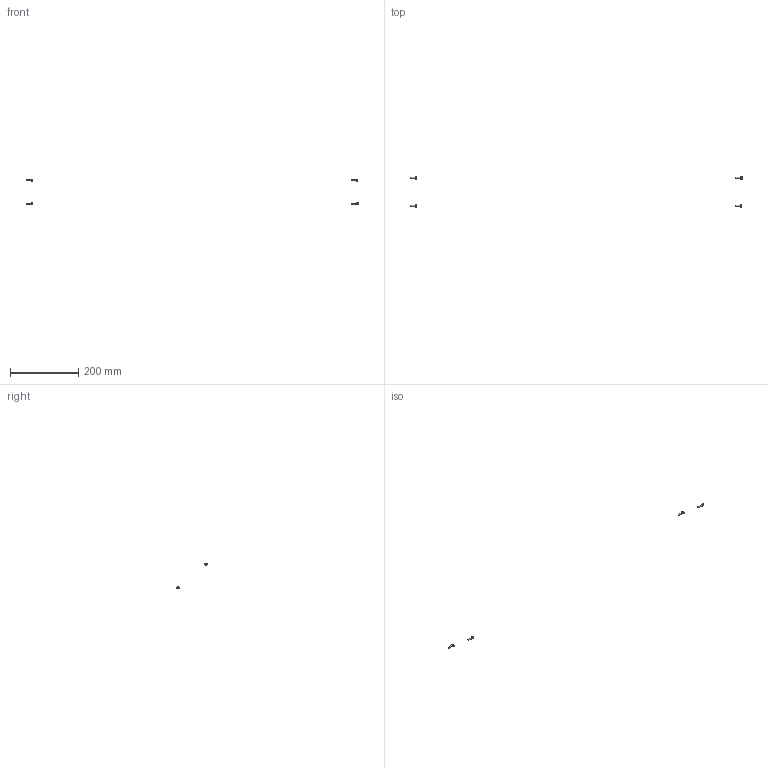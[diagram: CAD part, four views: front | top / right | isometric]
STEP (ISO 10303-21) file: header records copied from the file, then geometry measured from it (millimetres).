
FILE_DESCRIPTION(/* description */ (''),/* implementation_level */ '2;1');
FILE_NAME(/* name */ 'OPTICS~4',/* time_stamp */ '2014-02-14T19:48:26+01:00',/* author */ (''),/* organization */ (''),/* preprocessor_version */ 'ST-DEVELOPER v14',/* originating_system */ '',/* authorisation */ '');
FILE_SCHEMA (('AUTOMOTIVE_DESIGN'));
Length unit declared in the file: millimetre
Products named in the file (2): Document; screw DIN912-like, M4x16
Assembly tree (4 placements, depth 2):
  Document
    screw DIN912-like, M4x16  x4
Bounding box: 970 x 88.95 x 75.75 mm (x, y, z)
Volume: 1347.1 mm3; surface area: 1514.2 mm2
Topology: 4 solids, 4 shells, 100 faces, 224 edges, 132 vertices
Faces by surface type: plane 60, bspline 40
Entity records: 1429 total; most frequent: CARTESIAN_POINT 635, B_SPLINE_CURVE_WITH_KNOTS 126, ORIENTED_EDGE 108, PCURVE 108, DEFINITIONAL_REPRESENTATION 108, SURFACE_CURVE 54, EDGE_CURVE 54, VERTEX_POINT 33
